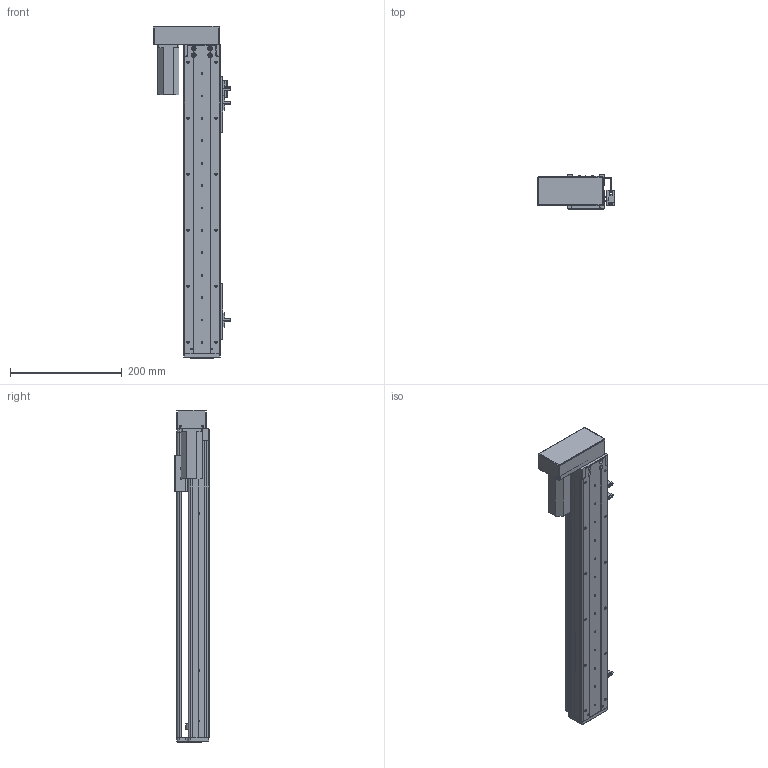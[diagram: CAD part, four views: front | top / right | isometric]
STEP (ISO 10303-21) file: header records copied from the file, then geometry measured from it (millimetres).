
FILE_DESCRIPTION (( 'STEP AP203' ), '1' );
FILE_NAME ('RY60-L1210-300-LK.SLDASM_400.step', '2021-02-20T06:53:56', ( '盈信电脑' ), ( '东莞市道滘镇水果街19号' ), 'SwSTEP 2.0', 'SolidWorks 2012', '' );
FILE_SCHEMA (( 'CONFIG_CONTROL_DESIGN' ));
Products named in the file (14): RY60-L1210-300-LK.SLDASM_400; RY60酘衵殏萇儂欶; 滅袉蝶18-10; RY60转折电机端支撑座; 侂狟100W; RY60左右折电机安装板-PCD46-M4; RY60綴裔啣; RY80俋离覜茼え; 覜茼ん672; RY60-300倰第裔啣-LK_400; 672嫖萇羲壽假蚾釱; RY60臏賑輸; RY60-300-MGW12絳寢-LK_400; RY60-300倰第菁釱-LK_400
Assembly tree (19 placements, depth 2):
  RY60-L1210-300-LK.SLDASM_400
    RY60-300倰第菁釱-LK_400
    RY60-300-MGW12絳寢-LK_400
    RY60臏賑輸
    RY60-300倰第裔啣-LK_400
    672嫖萇羲壽假蚾釱  x2
    RY60綴裔啣
    覜茼ん672  x3
    RY80俋离覜茼え
    滅袉蝶18-10  x4
    RY60转折电机端支撑座
    RY60左右折电机安装板-PCD46-M4
    侂狟100W
    RY60酘衵殏萇儂欶
Bounding box: 137.9 x 61 x 593 mm (x, y, z)
Volume: 917718.5 mm3; surface area: 445133.1 mm2
Topology: 19 solids, 19 shells, 1494 faces, 4142 edges, 2658 vertices
Faces by surface type: plane 731, cylinder 640, cone 106, bspline 17
Entity records: 44602 total; most frequent: CARTESIAN_POINT 10348, ORIENTED_EDGE 6856, DIRECTION 6738, EDGE_CURVE 3428, AXIS2_PLACEMENT_3D 2338, VERTEX_POINT 2238, LINE 2062, VECTOR 2062
